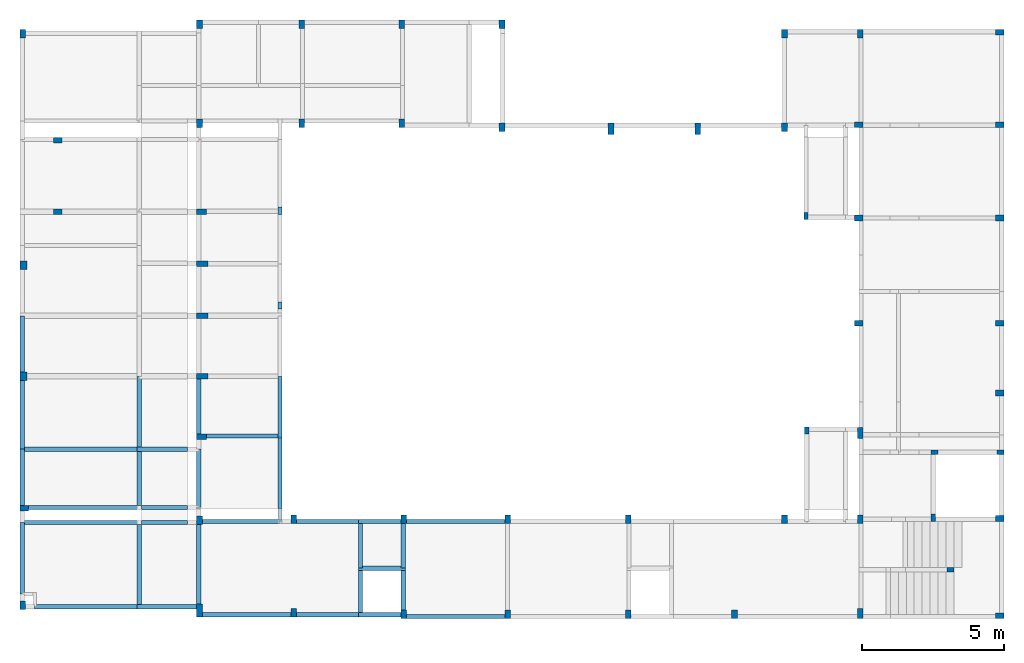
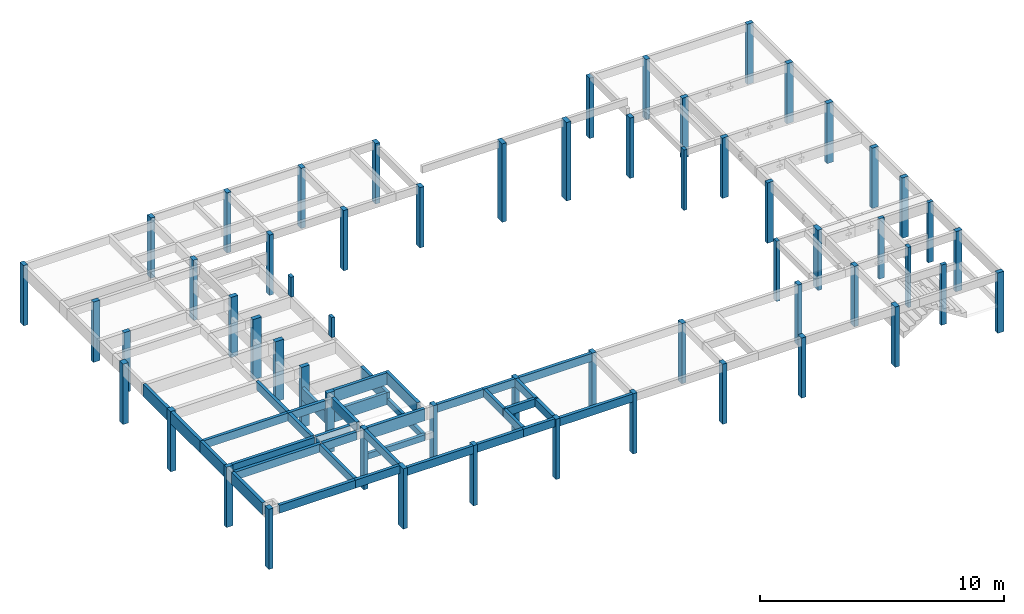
# One storey, part 1 of 21: 58 columns, 37 beams.
"""IFC4 building model written with IfcOpenShell, lengths in centimetres."""

from ifc_helpers import new_model, si_unit, derived_unit, frame, origin_with_axes, origin_2d_with_axis, place, context, project, spatial, rectangle, extrude, material, element, save


model = new_model("IFC4")

# Units and contexts
model_context = context("Model", 3, precision=1e-05, world=origin_with_axes(), identifier="Body")
ifc_project = project(units=[si_unit("LENGTHUNIT", "METRE", prefix="CENTI"), si_unit("VOLUMEUNIT", "CUBIC_METRE"), si_unit("AREAUNIT", "SQUARE_METRE"), si_unit("POWERUNIT", "WATT"), si_unit("LUMINOUSFLUXUNIT", "LUMEN"), si_unit("ELECTRICCURRENTUNIT", "AMPERE"), si_unit("PRESSUREUNIT", "PASCAL", prefix="KILO"), si_unit("MASSUNIT", "GRAM", prefix="KILO"), si_unit("PLANEANGLEUNIT", "RADIAN"), derived_unit("VOLUMETRICFLOWRATEUNIT", [(si_unit("LENGTHUNIT", "METRE"), 3), (si_unit("TIMEUNIT", "SECOND"), -1)])], contexts=[model_context])

# Site, building, storey
site_placement = place(None, origin_with_axes())
site = spatial("IfcSite", under=ifc_project, at=site_placement)
building_placement = place(site_placement, frame((0.0, 0.0, -295.0)))
building = spatial("IfcBuilding", under=site, at=building_placement)
placement_1 = place(building_placement, origin_with_axes())
placement_2 = place(placement_1, frame((0.0, 0.0, 101.0), z_axis=(0.0, 0.0, 1.0), x_axis=(1.0, 0.0, 0.0)))
placement_3 = place(placement_2, frame((0.0, 0.0, 204.0), z_axis=(0.0, 0.0, 1.0), x_axis=(1.0, 0.0, 0.0)))
placement_4 = place(placement_3, frame((0.0, 0.0, 292.0), z_axis=(0.0, 0.0, 1.0), x_axis=(1.0, 0.0, 0.0)))
storey_placement = place(placement_4, frame((0.0, 0.0, 302.0), z_axis=(0.0, 0.0, 1.0), x_axis=(1.0, 0.0, 0.0)))
storey = spatial("IfcBuildingStorey", under=building, at=storey_placement, Name="PAVTO 02", CompositionType="ELEMENT", Elevation=604.0)

# Columns
ifc_material = material(Name="Concreto")
column_1_placement = place(storey_placement, frame((561.73, -5119.55, 0.0), z_axis=(0.0, 0.0, 1.0), x_axis=(1.0, 0.0, 0.0)))
element("IfcColumn", 1, at=column_1_placement, inside=storey, material=ifc_material, Name="P1", context=model_context, shape_type="SolidModel", body=[
    extrude(rectangle(XDim=20.0, YDim=30.0, at=origin_2d_with_axis()), origin_with_axes(), (0.0, 0.0, -1.0), 302.0),
])
column_2_placement = place(storey_placement, frame((4001.76, -5114.55, 0.0), z_axis=(0.0, 0.0, 1.0), x_axis=(1.0, 0.0, 0.0)))
element("IfcColumn", 2, at=column_2_placement, inside=storey, material=ifc_material, Name="P10", context=model_context, shape_type="SolidModel", body=[
    extrude(rectangle(XDim=20.0, YDim=30.0, at=origin_2d_with_axis()), frame((0.0, 0.0, 0.0), z_axis=(0.0, 0.0, 1.0), x_axis=(0.0, 1.0, 0.0)), (0.0, 0.0, -1.0), 302.0),
])
for number, where, z_axis, x_axis, name in (
    (3, (1183.9, -5434.69, 0.0), (0.0, 0.0, 1.0), (1.0, 0.0, 0.0), "P11"),
    (4, (1544.4, -5434.69, 0.0), (0.0, 0.0, 1.0), (1.0, 0.0, 0.0), "P12"),
    (5, (1895.85, -5434.69, 0.0), (0.0, 0.0, 1.0), (1.0, 0.0, 0.0), "P13"),
    (6, (2248.73, -5449.62, 0.0), (0.0, 0.0, 1.0), (1.0, 0.0, 0.0), "P14"),
):
    element("IfcColumn", number, at=place(storey_placement, frame(where, z_axis=z_axis, x_axis=x_axis)), inside=storey, material=ifc_material, Name=name, context=model_context, shape_type="SolidModel", body=[
        extrude(rectangle(XDim=20.0, YDim=30.0, at=origin_2d_with_axis()), origin_with_axes(), (0.0, 0.0, -1.0), 302.0),
    ])
for number, where, z_axis, x_axis, name in (
    (7, (2632.84, -5454.62, 91.0), (0.0, 0.0, 1.0), (1.0, 0.0, 0.0), "P15"),
    (8, (2938.28, -5454.62, 91.0), (0.0, 0.0, 1.0), (1.0, 0.0, 0.0), "P16"),
):
    element("IfcColumn", number, at=place(storey_placement, frame(where, z_axis=z_axis, x_axis=x_axis)), inside=storey, material=ifc_material, Name=name, context=model_context, shape_type="SolidModel", body=[
        extrude(rectangle(XDim=20.0, YDim=40.0, at=origin_2d_with_axis()), origin_with_axes(), (0.0, 0.0, -1.0), 393.0),
    ])
column_3_placement = place(storey_placement, frame((3243.73, -5449.62, 0.0), z_axis=(0.0, 0.0, 1.0), x_axis=(1.0, 0.0, 0.0)))
element("IfcColumn", 9, at=column_3_placement, inside=storey, material=ifc_material, Name="P17", context=model_context, shape_type="SolidModel", body=[
    extrude(rectangle(XDim=20.0, YDim=30.0, at=origin_2d_with_axis()), origin_with_axes(), (0.0, 0.0, -1.0), 302.0),
])
for number, where, z_axis, x_axis, name in (
    (10, (3505.71, -5439.69, 0.0), (0.0, 0.0, 1.0), (1.0, 0.0, 0.0), "P18"),
    (11, (4001.74, -5439.69, 0.0), (0.0, 0.0, 1.0), (1.0, 0.0, 0.0), "P19"),
):
    element("IfcColumn", number, at=place(storey_placement, frame(where, z_axis=z_axis, x_axis=x_axis)), inside=storey, material=ifc_material, Name=name, context=model_context, shape_type="SolidModel", body=[
        extrude(rectangle(XDim=20.0, YDim=30.0, at=origin_2d_with_axis()), frame((0.0, 0.0, 0.0), z_axis=(0.0, 0.0, 1.0), x_axis=(0.0, -1.0, 0.0)), (0.0, 0.0, -1.0), 302.0),
    ])
column_4_placement = place(storey_placement, frame((1183.9, -5086.11, 0.0), z_axis=(0.0, 0.0, 1.0), x_axis=(1.0, 0.0, 0.0)))
element("IfcColumn", 12, at=column_4_placement, inside=storey, material=ifc_material, Name="P2", context=model_context, shape_type="SolidModel", body=[
    extrude(rectangle(XDim=20.0, YDim=30.0, at=origin_2d_with_axis()), origin_with_axes(), (0.0, 0.0, -1.0), 302.0),
])
for number, where, z_axis, x_axis, name in (
    (13, (683.93, -5494.16, 0.0), (0.0, 0.0, 1.0), (1.0, 0.0, 0.0), "P20"),
    (14, (683.93, -5746.84, 0.0), (0.0, 0.0, 1.0), (1.0, 0.0, 0.0), "P22"),
):
    element("IfcColumn", number, at=place(storey_placement, frame(where, z_axis=z_axis, x_axis=x_axis)), inside=storey, material=ifc_material, Name=name, context=model_context, shape_type="SolidModel", body=[
        extrude(rectangle(XDim=20.0, YDim=30.0, at=origin_2d_with_axis()), frame((0.0, 0.0, 0.0), z_axis=(0.0, 0.0, 1.0), x_axis=(0.0, 1.0, 0.0)), (0.0, 0.0, -1.0), 302.0),
    ])
column_5_placement = place(storey_placement, frame((1191.4, -5746.84, 0.0), z_axis=(0.0, 0.0, 1.0), x_axis=(1.0, 0.0, 0.0)))
element("IfcColumn", 15, at=column_5_placement, inside=storey, material=ifc_material, Name="P23", context=model_context, shape_type="SolidModel", body=[
    extrude(rectangle(XDim=20.0, YDim=35.0, at=origin_2d_with_axis()), frame((0.0, 0.0, 0.0), z_axis=(0.0, 0.0, 1.0), x_axis=(0.0, 1.0, 0.0)), (0.0, 0.0, -1.0), 302.0),
])
column_6_placement = place(storey_placement, frame((3319.4, -5761.05, 0.0), z_axis=(0.0, 0.0, 1.0), x_axis=(1.0, 0.0, 0.0)))
element("IfcColumn", 16, at=column_6_placement, inside=storey, material=ifc_material, Name="P24", context=model_context, shape_type="SolidModel", body=[
    extrude(rectangle(XDim=15.0, YDim=25.0, at=origin_2d_with_axis()), origin_with_axes(), (0.0, 0.0, -1.0), 302.0),
])
for number, where, z_axis, x_axis, name in (
    (17, (3505.73, -5768.55, 0.0), (0.0, 0.0, 1.0), (1.0, 0.0, 0.0), "P25"),
    (18, (4001.76, -5768.55, 0.0), (0.0, 0.0, 1.0), (1.0, 0.0, 0.0), "P26"),
):
    element("IfcColumn", number, at=place(storey_placement, frame(where, z_axis=z_axis, x_axis=x_axis)), inside=storey, material=ifc_material, Name=name, context=model_context, shape_type="SolidModel", body=[
        extrude(rectangle(XDim=20.0, YDim=30.0, at=origin_2d_with_axis()), frame((0.0, 0.0, 0.0), z_axis=(0.0, 0.0, 1.0), x_axis=(0.0, -1.0, 0.0)), (0.0, 0.0, -1.0), 302.0),
    ])
column_7_placement = place(storey_placement, frame((564.23, -5934.85, 0.0), z_axis=(0.0, 0.0, 1.0), x_axis=(1.0, 0.0, 0.0)))
element("IfcColumn", 19, at=column_7_placement, inside=storey, material=ifc_material, Name="P27", context=model_context, shape_type="SolidModel", body=[
    extrude(rectangle(XDim=25.0, YDim=30.0, at=origin_2d_with_axis()), origin_with_axes(), (0.0, 0.0, -1.0), 302.0),
])
column_8_placement = place(storey_placement, frame((1193.9, -5929.85, 0.0), z_axis=(0.0, 0.0, 1.0), x_axis=(1.0, 0.0, 0.0)))
element("IfcColumn", 20, at=column_8_placement, inside=storey, material=ifc_material, Name="P28", context=model_context, shape_type="SolidModel", body=[
    extrude(rectangle(XDim=20.0, YDim=40.0, at=origin_2d_with_axis()), frame((0.0, 0.0, 0.0), z_axis=(0.0, 0.0, 1.0), x_axis=(0.0, -1.0, 0.0)), (0.0, 0.0, -1.0), 302.0),
])
column_9_placement = place(storey_placement, frame((1193.9, -6112.7, 0.0), z_axis=(0.0, 0.0, 1.0), x_axis=(1.0, 0.0, 0.0)))
element("IfcColumn", 21, at=column_9_placement, inside=storey, material=ifc_material, Name="P29", context=model_context, shape_type="SolidModel", body=[
    extrude(rectangle(XDim=20.0, YDim=40.0, at=origin_2d_with_axis()), frame((0.0, 0.0, 0.0), z_axis=(0.0, 0.0, 1.0), x_axis=(0.0, 1.0, 0.0)), (0.0, 0.0, -1.0), 302.0),
])
column_10_placement = place(storey_placement, frame((1544.4, -5086.11, 0.0), z_axis=(0.0, 0.0, 1.0), x_axis=(1.0, 0.0, 0.0)))
element("IfcColumn", 22, at=column_10_placement, inside=storey, material=ifc_material, Name="P3", context=model_context, shape_type="SolidModel", body=[
    extrude(rectangle(XDim=20.0, YDim=30.0, at=origin_2d_with_axis()), origin_with_axes(), (0.0, 0.0, -1.0), 302.0),
])
for number, where, z_axis, x_axis, name in (
    (23, (3505.73, -6138.55, 0.0), (0.0, 0.0, 1.0), (1.0, 0.0, 0.0), "P30"),
    (24, (4001.76, -6138.55, 0.0), (0.0, 0.0, 1.0), (1.0, 0.0, 0.0), "P31"),
):
    element("IfcColumn", number, at=place(storey_placement, frame(where, z_axis=z_axis, x_axis=x_axis)), inside=storey, material=ifc_material, Name=name, context=model_context, shape_type="SolidModel", body=[
        extrude(rectangle(XDim=20.0, YDim=30.0, at=origin_2d_with_axis()), frame((0.0, 0.0, 0.0), z_axis=(0.0, 0.0, 1.0), x_axis=(0.0, -1.0, 0.0)), (0.0, 0.0, -1.0), 302.0),
    ])
column_11_placement = place(storey_placement, frame((564.23, -6325.62, 0.0), z_axis=(0.0, 0.0, 1.0), x_axis=(1.0, 0.0, 0.0)))
element("IfcColumn", 25, at=column_11_placement, inside=storey, material=ifc_material, Name="P32", context=model_context, shape_type="SolidModel", body=[
    extrude(rectangle(XDim=25.0, YDim=30.0, at=origin_2d_with_axis()), origin_with_axes(), (0.0, 0.0, -1.0), 302.0),
])
column_12_placement = place(storey_placement, frame((1193.9, -6325.62, 0.0), z_axis=(0.0, 0.0, 1.0), x_axis=(1.0, 0.0, 0.0)))
element("IfcColumn", 26, at=column_12_placement, inside=storey, material=ifc_material, Name="P33", context=model_context, shape_type="SolidModel", body=[
    extrude(rectangle(XDim=20.0, YDim=40.0, at=origin_2d_with_axis()), frame((0.0, 0.0, 0.0), z_axis=(0.0, 0.0, 1.0), x_axis=(0.0, 1.0, 0.0)), (0.0, 0.0, -1.0), 302.0),
])
column_13_placement = place(storey_placement, frame((4001.76, -6384.65, 0.0), z_axis=(0.0, 0.0, 1.0), x_axis=(1.0, 0.0, 0.0)))
element("IfcColumn", 27, at=column_13_placement, inside=storey, material=ifc_material, Name="P34", context=model_context, shape_type="SolidModel", body=[
    extrude(rectangle(XDim=20.0, YDim=30.0, at=origin_2d_with_axis()), frame((0.0, 0.0, 0.0), z_axis=(0.0, 0.0, 1.0), x_axis=(0.0, -1.0, 0.0)), (0.0, 0.0, -1.0), 302.0),
])
column_14_placement = place(storey_placement, frame((1191.4, -6538.55, 0.0), z_axis=(0.0, 0.0, 1.0), x_axis=(1.0, 0.0, 0.0)))
element("IfcColumn", 28, at=column_14_placement, inside=storey, material=ifc_material, Name="P35", context=model_context, shape_type="SolidModel", body=[
    extrude(rectangle(XDim=20.0, YDim=35.0, at=origin_2d_with_axis()), frame((0.0, 0.0, 0.0), z_axis=(0.0, 0.0, 1.0), x_axis=(0.0, 1.0, 0.0)), (0.0, 0.0, -1.0), 302.0),
])
column_15_placement = place(storey_placement, frame((3322.23, -6516.7, 0.0), z_axis=(0.0, 0.0, 1.0), x_axis=(1.0, 0.0, 0.0)))
element("IfcColumn", 29, at=column_15_placement, inside=storey, material=ifc_material, Name="P36", context=model_context, shape_type="SolidModel", body=[
    extrude(rectangle(XDim=15.0, YDim=25.0, at=origin_2d_with_axis()), origin_with_axes(), (0.0, 0.0, -1.0), 302.0),
])
column_16_placement = place(storey_placement, frame((3510.73, -6525.55, 0.0), z_axis=(0.0, 0.0, 1.0), x_axis=(1.0, 0.0, 0.0)))
element("IfcColumn", 30, at=column_16_placement, inside=storey, material=ifc_material, Name="P37", context=model_context, shape_type="SolidModel", body=[
    extrude(rectangle(XDim=20.0, YDim=40.0, at=origin_2d_with_axis()), origin_with_axes(), (0.0, 0.0, -1.0), 302.0),
])
for number, where, z_axis, x_axis, name in (
    (31, (3772.23, -6592.81, 0.0), (0.0, 0.0, 1.0), (1.0, 0.0, 0.0), "P38"),
    (32, (4004.23, -6592.81, 0.0), (0.0, 0.0, 1.0), (1.0, 0.0, 0.0), "P39"),
):
    element("IfcColumn", number, at=place(storey_placement, frame(where, z_axis=z_axis, x_axis=x_axis)), inside=storey, material=ifc_material, Name=name, context=model_context, shape_type="SolidModel", body=[
        extrude(rectangle(XDim=15.0, YDim=25.0, at=origin_2d_with_axis()), frame((0.0, 0.0, 0.0), z_axis=(0.0, 0.0, 1.0), x_axis=(0.0, 1.0, 0.0)), (0.0, 0.0, -1.0), 302.0),
    ])
column_17_placement = place(storey_placement, frame((1895.85, -5086.11, 0.0), z_axis=(0.0, 0.0, 1.0), x_axis=(1.0, 0.0, 0.0)))
element("IfcColumn", 33, at=column_17_placement, inside=storey, material=ifc_material, Name="P4", context=model_context, shape_type="SolidModel", body=[
    extrude(rectangle(XDim=20.0, YDim=30.0, at=origin_2d_with_axis()), origin_with_axes(), (0.0, 0.0, -1.0), 302.0),
])
column_18_placement = place(storey_placement, frame((566.73, -6790.04, 0.0), z_axis=(0.0, 0.0, 1.0), x_axis=(1.0, 0.0, 0.0)))
element("IfcColumn", 34, at=column_18_placement, inside=storey, material=ifc_material, Name="P40", context=model_context, shape_type="SolidModel", body=[
    extrude(rectangle(XDim=20.0, YDim=30.0, at=origin_2d_with_axis()), frame((0.0, 0.0, 0.0), z_axis=(0.0, 0.0, 1.0), x_axis=(0.0, 1.0, 0.0)), (0.0, 0.0, -1.0), 302.0),
])
for number, where, z_axis, x_axis, name in (
    (35, (1183.9, -6833.35, 0.0), (0.0, 0.0, 1.0), (1.0, 0.0, 0.0), "P41"),
    (36, (1515.96, -6829.2, 0.0), (0.0, 0.0, 1.0), (1.0, 0.0, 0.0), "P42"),
    (37, (1903.6, -6829.2, 0.0), (0.0, 0.0, 1.0), (1.0, 0.0, 0.0), "P43"),
    (38, (2268.73, -6829.2, 0.0), (0.0, 0.0, 1.0), (1.0, 0.0, 0.0), "P44"),
    (39, (2693.6, -6829.2, 0.0), (0.0, 0.0, 1.0), (1.0, 0.0, 0.0), "P45"),
    (40, (3243.73, -6829.2, 0.0), (0.0, 0.0, 1.0), (1.0, 0.0, 0.0), "P46"),
    (41, (3510.73, -6829.2, 0.0), (0.0, 0.0, 1.0), (1.0, 0.0, 0.0), "P47"),
):
    element("IfcColumn", number, at=place(storey_placement, frame(where, z_axis=z_axis, x_axis=x_axis)), inside=storey, material=ifc_material, Name=name, context=model_context, shape_type="SolidModel", body=[
        extrude(rectangle(XDim=20.0, YDim=30.0, at=origin_2d_with_axis()), origin_with_axes(), (0.0, 0.0, -1.0), 302.0),
    ])
column_19_placement = place(storey_placement, frame((3767.23, -6823.79, 0.0), z_axis=(0.0, 0.0, 1.0), x_axis=(1.0, 0.0, 0.0)))
element("IfcColumn", 42, at=column_19_placement, inside=storey, material=ifc_material, Name="P48", context=model_context, shape_type="SolidModel", body=[
    extrude(rectangle(XDim=15.0, YDim=25.0, at=origin_2d_with_axis()), origin_with_axes(), (0.0, 0.0, -1.0), 302.0),
])
column_20_placement = place(storey_placement, frame((4001.75, -6826.29, 0.0), z_axis=(0.0, 0.0, 1.0), x_axis=(1.0, 0.0, 0.0)))
element("IfcColumn", 43, at=column_20_placement, inside=storey, material=ifc_material, Name="P49", context=model_context, shape_type="SolidModel", body=[
    extrude(rectangle(XDim=20.0, YDim=30.0, at=origin_2d_with_axis()), frame((0.0, 0.0, 0.0), z_axis=(0.0, 0.0, 1.0), x_axis=(0.0, 1.0, 0.0)), (0.0, 0.0, -1.0), 302.0),
])
column_21_placement = place(storey_placement, frame((2248.73, -5086.25, 0.0), z_axis=(0.0, 0.0, 1.0), x_axis=(1.0, 0.0, 0.0)))
element("IfcColumn", 44, at=column_21_placement, inside=storey, material=ifc_material, Name="P5", context=model_context, shape_type="SolidModel", body=[
    extrude(rectangle(XDim=20.0, YDim=30.0, at=origin_2d_with_axis()), origin_with_axes(), (0.0, 0.0, -1.0), 302.0),
])
column_22_placement = place(storey_placement, frame((3828.09, -7006.81, 0.0), z_axis=(0.0, 0.0, 1.0), x_axis=(1.0, 0.0, 0.0)))
element("IfcColumn", 45, at=column_22_placement, inside=storey, material=ifc_material, Name="P50", context=model_context, shape_type="SolidModel", body=[
    extrude(rectangle(XDim=15.0, YDim=25.0, at=origin_2d_with_axis()), frame((0.0, 0.0, 0.0), z_axis=(0.0, 0.0, 1.0), x_axis=(0.0, -1.0, 0.0)), (0.0, 0.0, -1.0), 302.0),
])
column_23_placement = place(storey_placement, frame((561.73, -7132.2, 0.0), z_axis=(0.0, 0.0, 1.0), x_axis=(1.0, 0.0, 0.0)))
element("IfcColumn", 46, at=column_23_placement, inside=storey, material=ifc_material, Name="P51", context=model_context, shape_type="SolidModel", body=[
    extrude(rectangle(XDim=20.0, YDim=30.0, at=origin_2d_with_axis()), frame((0.0, 0.0, 0.0), z_axis=(0.0, 0.0, 1.0), x_axis=(-1.0, 0.0, 0.0)), (0.0, 0.0, -1.0), 302.0),
])
column_24_placement = place(storey_placement, frame((1183.9, -7150.43, 0.0), z_axis=(0.0, 0.0, 1.0), x_axis=(1.0, 0.0, 0.0)))
element("IfcColumn", 47, at=column_24_placement, inside=storey, material=ifc_material, Name="P52", context=model_context, shape_type="SolidModel", body=[
    extrude(rectangle(XDim=20.0, YDim=45.0, at=origin_2d_with_axis()), frame((0.0, 0.0, 0.0), z_axis=(0.0, 0.0, 1.0), x_axis=(-1.0, 0.0, 0.0)), (0.0, 0.0, -1.0), 302.0),
])
for number, where, z_axis, x_axis, name in (
    (48, (1515.96, -7157.93, 0.0), (0.0, 0.0, 1.0), (1.0, 0.0, 0.0), "P53"),
    (49, (1903.6, -7164.31, 0.0), (0.0, 0.0, 1.0), (1.0, 0.0, 0.0), "P54"),
    (50, (2268.73, -7164.31, 0.0), (0.0, 0.0, 1.0), (1.0, 0.0, 0.0), "P55"),
    (51, (2693.6, -7164.31, 0.0), (0.0, 0.0, 1.0), (1.0, 0.0, 0.0), "P56"),
    (52, (3067.54, -7164.31, 0.0), (0.0, 0.0, 1.0), (1.0, 0.0, 0.0), "P57"),
):
    element("IfcColumn", number, at=place(storey_placement, frame(where, z_axis=z_axis, x_axis=x_axis)), inside=storey, material=ifc_material, Name=name, context=model_context, shape_type="SolidModel", body=[
        extrude(rectangle(XDim=20.0, YDim=30.0, at=origin_2d_with_axis()), origin_with_axes(), (0.0, 0.0, -1.0), 302.0),
    ])
column_25_placement = place(storey_placement, frame((3510.73, -7161.81, 0.0), z_axis=(0.0, 0.0, 1.0), x_axis=(1.0, 0.0, 0.0)))
element("IfcColumn", 53, at=column_25_placement, inside=storey, material=ifc_material, Name="P58", context=model_context, shape_type="SolidModel", body=[
    extrude(rectangle(XDim=20.0, YDim=35.0, at=origin_2d_with_axis()), frame((0.0, 0.0, 0.0), z_axis=(0.0, 0.0, 1.0), x_axis=(-1.0, 0.0, 0.0)), (0.0, 0.0, -1.0), 302.0),
])
column_26_placement = place(storey_placement, frame((4001.76, -7169.31, 0.0), z_axis=(0.0, 0.0, 1.0), x_axis=(1.0, 0.0, 0.0)))
element("IfcColumn", 54, at=column_26_placement, inside=storey, material=ifc_material, Name="P59", context=model_context, shape_type="SolidModel", body=[
    extrude(rectangle(XDim=20.0, YDim=30.0, at=origin_2d_with_axis()), frame((0.0, 0.0, 0.0), z_axis=(0.0, 0.0, 1.0), x_axis=(0.0, -1.0, 0.0)), (0.0, 0.0, -1.0), 302.0),
])
for number, where, z_axis, x_axis, name in (
    (55, (1467.4, -5742.84, 0.0), (0.0, 0.0, 1.0), (1.0, 0.0, 0.0), "P60"),
    (56, (1467.4, -6076.7, 0.0), (0.0, 0.0, 1.0), (1.0, 0.0, 0.0), "P61"),
):
    element("IfcColumn", number, at=place(storey_placement, frame(where, z_axis=z_axis, x_axis=x_axis)), inside=storey, material=ifc_material, Name=name, context=model_context, shape_type="SolidModel", body=[
        extrude(rectangle(XDim=15.0, YDim=25.0, at=origin_2d_with_axis()), origin_with_axes(), (0.0, 0.0, -1.0), 100.0),
    ])
column_27_placement = place(storey_placement, frame((3243.73, -5119.55, 0.0), z_axis=(0.0, 0.0, 1.0), x_axis=(1.0, 0.0, 0.0)))
element("IfcColumn", 57, at=column_27_placement, inside=storey, material=ifc_material, Name="P8", context=model_context, shape_type="SolidModel", body=[
    extrude(rectangle(XDim=20.0, YDim=30.0, at=origin_2d_with_axis()), origin_with_axes(), (0.0, 0.0, -1.0), 302.0),
])
column_28_placement = place(storey_placement, frame((3510.73, -5119.55, 0.0), z_axis=(0.0, 0.0, 1.0), x_axis=(1.0, 0.0, 0.0)))
element("IfcColumn", 58, at=column_28_placement, inside=storey, material=ifc_material, Name="P9", context=model_context, shape_type="SolidModel", body=[
    extrude(rectangle(XDim=20.0, YDim=30.0, at=origin_2d_with_axis()), frame((0.0, 0.0, 0.0), z_axis=(0.0, 0.0, 1.0), x_axis=(-1.0, 0.0, 0.0)), (0.0, 0.0, -1.0), 302.0),
])

# Beams
beam_1_placement = place(storey_placement, frame((765.4, -6582.54, 0.0), z_axis=(0.0, 0.0, 1.0), x_axis=(1.0, 0.0, 0.0)))
element("IfcBeam", 59, at=beam_1_placement, inside=storey, material=ifc_material, Name="V221", context=model_context, shape_type="SolidModel", body=[
    extrude(rectangle(XDim=15.0, YDim=40.0, at=origin_2d_with_axis()), frame((-206.17, 0.0, -20.0), z_axis=(1.0, 0.0, 0.0), x_axis=(0.0, -1.0, 0.0)), (0.0, 0.0, 1.0), 412.34),
])
beam_2_placement = place(storey_placement, frame((1052.485, -6582.54, 0.0), z_axis=(0.0, 0.0, 1.0), x_axis=(1.0, 0.0, 0.0)))
element("IfcBeam", 60, at=beam_2_placement, inside=storey, material=ifc_material, Name="V221", context=model_context, shape_type="SolidModel", body=[
    extrude(rectangle(XDim=15.0, YDim=40.0, at=origin_2d_with_axis()), frame((-88.415, 0.0, -20.0), z_axis=(1.0, 0.0, 0.0), x_axis=(0.0, -1.0, 0.0)), (0.0, 0.0, 1.0), 176.83),
])
beam_3_placement = place(storey_placement, frame((1334.4, -6536.05, 0.0), z_axis=(0.0, 0.0, 1.0), x_axis=(1.0, 0.0, 0.0)))
element("IfcBeam", 61, at=beam_3_placement, inside=storey, material=ifc_material, Name="V222", context=model_context, shape_type="SolidModel", body=[
    extrude(rectangle(XDim=15.0, YDim=60.0, at=origin_2d_with_axis()), frame((-125.5, 0.0, -30.0), z_axis=(1.0, 0.0, 0.0), x_axis=(0.0, -1.0, 0.0)), (0.0, 0.0, 1.0), 251.0),
])
beam_4_placement = place(storey_placement, frame((1059.985, -6787.54, 0.0), z_axis=(0.0, 0.0, 1.0), x_axis=(1.0, 0.0, 0.0)))
element("IfcBeam", 62, at=beam_4_placement, inside=storey, material=ifc_material, Name="V224", context=model_context, shape_type="SolidModel", body=[
    extrude(rectangle(XDim=15.0, YDim=40.0, at=origin_2d_with_axis()), frame((-80.915, 0.0, -20.0), z_axis=(1.0, 0.0, 0.0), x_axis=(0.0, -1.0, 0.0)), (0.0, 0.0, 1.0), 161.83),
])
beam_5_placement = place(storey_placement, frame((776.65, -6787.54, 0.0), z_axis=(0.0, 0.0, 1.0), x_axis=(1.0, 0.0, 0.0)))
element("IfcBeam", 63, at=beam_5_placement, inside=storey, material=ifc_material, Name="V224", context=model_context, shape_type="SolidModel", body=[
    extrude(rectangle(XDim=15.0, YDim=40.0, at=origin_2d_with_axis()), frame((-194.92, 0.0, -20.0), z_axis=(1.0, 0.0, 0.0), x_axis=(0.0, -1.0, 0.0)), (0.0, 0.0, 1.0), 389.84),
])
beam_6_placement = place(storey_placement, frame((1059.985, -6840.85, 0.0), z_axis=(0.0, 0.0, 1.0), x_axis=(1.0, 0.0, 0.0)))
element("IfcBeam", 64, at=beam_6_placement, inside=storey, material=ifc_material, Name="V225", context=model_context, shape_type="SolidModel", body=[
    extrude(rectangle(XDim=15.0, YDim=40.0, at=origin_2d_with_axis()), frame((-80.915, 0.0, -20.0), z_axis=(1.0, 0.0, 0.0), x_axis=(0.0, -1.0, 0.0)), (0.0, 0.0, 1.0), 161.83),
])
beam_7_placement = place(storey_placement, frame((765.4, -6840.85, 0.0), z_axis=(0.0, 0.0, 1.0), x_axis=(1.0, 0.0, 0.0)))
element("IfcBeam", 65, at=beam_7_placement, inside=storey, material=ifc_material, Name="V225", context=model_context, shape_type="SolidModel", body=[
    extrude(rectangle(XDim=15.0, YDim=40.0, at=origin_2d_with_axis()), frame((-206.17, 0.0, -20.0), z_axis=(1.0, 0.0, 0.0), x_axis=(0.0, -1.0, 0.0)), (0.0, 0.0, 1.0), 412.34),
])
beam_8_placement = place(storey_placement, frame((1330.65, -6836.7, 0.0), z_axis=(0.0, 0.0, 1.0), x_axis=(1.0, 0.0, 0.0)))
element("IfcBeam", 66, at=beam_8_placement, inside=storey, material=ifc_material, Name="V226", context=model_context, shape_type="SolidModel", body=[
    extrude(rectangle(XDim=15.0, YDim=60.0, at=origin_2d_with_axis()), frame((-136.75, 0.0, -30.0), z_axis=(1.0, 0.0, 0.0), x_axis=(0.0, -1.0, 0.0)), (0.0, 0.0, 1.0), 273.5),
])
beam_9_placement = place(storey_placement, frame((2086.165, -6836.7, 0.0), z_axis=(0.0, 0.0, 1.0), x_axis=(1.0, 0.0, 0.0)))
element("IfcBeam", 67, at=beam_9_placement, inside=storey, material=ifc_material, Name="V227", context=model_context, shape_type="SolidModel", body=[
    extrude(rectangle(XDim=15.0, YDim=40.0, at=origin_2d_with_axis()), frame((-172.565, 0.0, -20.0), z_axis=(1.0, 0.0, 0.0), x_axis=(0.0, -1.0, 0.0)), (0.0, 0.0, 1.0), 345.13),
])
beam_10_placement = place(storey_placement, frame((1638.53, -6836.7, 0.0), z_axis=(0.0, 0.0, 1.0), x_axis=(1.0, 0.0, 0.0)))
element("IfcBeam", 68, at=beam_10_placement, inside=storey, material=ifc_material, Name="V227", context=model_context, shape_type="SolidModel", body=[
    extrude(rectangle(XDim=15.0, YDim=40.0, at=origin_2d_with_axis()), frame((-112.57, 0.0, -20.0), z_axis=(1.0, 0.0, 0.0), x_axis=(0.0, -1.0, 0.0)), (0.0, 0.0, 1.0), 225.14),
])
beam_11_placement = place(storey_placement, frame((1818.6, -6836.7, 0.0), z_axis=(0.0, 0.0, 1.0), x_axis=(1.0, 0.0, 0.0)))
element("IfcBeam", 69, at=beam_11_placement, inside=storey, material=ifc_material, Name="V227", context=model_context, shape_type="SolidModel", body=[
    extrude(rectangle(XDim=15.0, YDim=40.0, at=origin_2d_with_axis()), frame((-75.0, 0.0, -20.0), z_axis=(1.0, 0.0, 0.0), x_axis=(0.0, -1.0, 0.0)), (0.0, 0.0, 1.0), 150.0),
])
beam_12_placement = place(storey_placement, frame((1826.1, -7001.64, 0.0), z_axis=(0.0, 0.0, 1.0), x_axis=(1.0, 0.0, 0.0)))
element("IfcBeam", 70, at=beam_12_placement, inside=storey, material=ifc_material, Name="V229", context=model_context, shape_type="SolidModel", body=[
    extrude(rectangle(XDim=15.0, YDim=40.0, at=origin_2d_with_axis()), frame((-82.5, 0.0, -20.0), z_axis=(1.0, 0.0, 0.0), x_axis=(0.0, -1.0, 0.0)), (0.0, 0.0, 1.0), 165.0),
])
beam_13_placement = place(storey_placement, frame((787.51, -7136.84, 0.0), z_axis=(0.0, 0.0, 1.0), x_axis=(1.0, 0.0, 0.0)))
element("IfcBeam", 71, at=beam_13_placement, inside=storey, material=ifc_material, Name="V233", context=model_context, shape_type="SolidModel", body=[
    extrude(rectangle(XDim=15.0, YDim=40.0, at=origin_2d_with_axis()), frame((-184.06, 0.0, -20.0), z_axis=(1.0, 0.0, 0.0), x_axis=(0.0, -1.0, 0.0)), (0.0, 0.0, 1.0), 368.12),
])
beam_14_placement = place(storey_placement, frame((1068.985, -7136.84, 0.0), z_axis=(0.0, 0.0, 1.0), x_axis=(1.0, 0.0, 0.0)))
element("IfcBeam", 72, at=beam_14_placement, inside=storey, material=ifc_material, Name="V233", context=model_context, shape_type="SolidModel", body=[
    extrude(rectangle(XDim=15.0, YDim=40.0, at=origin_2d_with_axis()), frame((-104.915, 0.0, -20.0), z_axis=(1.0, 0.0, 0.0), x_axis=(0.0, -1.0, 0.0)), (0.0, 0.0, 1.0), 209.83),
])
beam_15_placement = place(storey_placement, frame((1818.6, -7165.43, 0.0), z_axis=(0.0, 0.0, 1.0), x_axis=(1.0, 0.0, 0.0)))
element("IfcBeam", 73, at=beam_15_placement, inside=storey, material=ifc_material, Name="V234", context=model_context, shape_type="SolidModel", body=[
    extrude(rectangle(XDim=15.0, YDim=40.0, at=origin_2d_with_axis()), frame((-75.0, 0.0, -20.0), z_axis=(1.0, 0.0, 0.0), x_axis=(0.0, -1.0, 0.0)), (0.0, 0.0, 1.0), 150.0),
])
beam_16_placement = place(storey_placement, frame((1349.93, -7165.43, 0.0), z_axis=(0.0, 0.0, 1.0), x_axis=(1.0, 0.0, 0.0)))
element("IfcBeam", 74, at=beam_16_placement, inside=storey, material=ifc_material, Name="V234", context=model_context, shape_type="SolidModel", body=[
    extrude(rectangle(XDim=15.0, YDim=40.0, at=origin_2d_with_axis()), frame((-156.03, 0.0, -20.0), z_axis=(1.0, 0.0, 0.0), x_axis=(0.0, -1.0, 0.0)), (0.0, 0.0, 1.0), 312.06),
])
beam_17_placement = place(storey_placement, frame((1638.53, -7165.43, 0.0), z_axis=(0.0, 0.0, 1.0), x_axis=(1.0, 0.0, 0.0)))
element("IfcBeam", 75, at=beam_17_placement, inside=storey, material=ifc_material, Name="V234", context=model_context, shape_type="SolidModel", body=[
    extrude(rectangle(XDim=15.0, YDim=40.0, at=origin_2d_with_axis()), frame((-112.57, 0.0, -20.0), z_axis=(1.0, 0.0, 0.0), x_axis=(0.0, -1.0, 0.0)), (0.0, 0.0, 1.0), 225.14),
])
beam_18_placement = place(storey_placement, frame((2086.165, -7171.81, 0.0), z_axis=(0.0, 0.0, 1.0), x_axis=(1.0, 0.0, 0.0)))
element("IfcBeam", 76, at=beam_18_placement, inside=storey, material=ifc_material, Name="V235", context=model_context, shape_type="SolidModel", body=[
    extrude(rectangle(XDim=15.0, YDim=40.0, at=origin_2d_with_axis()), frame((-172.565, 0.0, -20.0), z_axis=(1.0, 0.0, 0.0), x_axis=(0.0, -1.0, 0.0)), (0.0, 0.0, 1.0), 345.13),
])
beam_19_placement = place(storey_placement, frame((559.23, -6681.29, 0.0), z_axis=(0.0, 0.0, 1.0), x_axis=(1.0, 0.0, 0.0)))
element("IfcBeam", 77, at=beam_19_placement, inside=storey, material=ifc_material, Name="V237", context=model_context, shape_type="SolidModel", body=[
    extrude(rectangle(XDim=15.0, YDim=60.0, at=origin_2d_with_axis()), frame((0.0, -98.75, -30.0), z_axis=(0.0, 1.0, 0.0), x_axis=(1.0, 0.0, 0.0)), (0.0, 0.0, 1.0), 197.5),
])
beam_20_placement = place(storey_placement, frame((559.23, -6461.58, 0.0), z_axis=(0.0, 0.0, 1.0), x_axis=(1.0, 0.0, 0.0)))
element("IfcBeam", 78, at=beam_20_placement, inside=storey, material=ifc_material, Name="V237", context=model_context, shape_type="SolidModel", body=[
    extrude(rectangle(XDim=15.0, YDim=60.0, at=origin_2d_with_axis()), frame((0.0, -120.96, -30.0), z_axis=(0.0, 1.0, 0.0), x_axis=(1.0, 0.0, 0.0)), (0.0, 0.0, 1.0), 241.92),
])
beam_21_placement = place(storey_placement, frame((559.23, -6211.66, 0.0), z_axis=(0.0, 0.0, 1.0), x_axis=(1.0, 0.0, 0.0)))
element("IfcBeam", 79, at=beam_21_placement, inside=storey, material=ifc_material, Name="V237", context=model_context, shape_type="SolidModel", body=[
    extrude(rectangle(XDim=15.0, YDim=60.0, at=origin_2d_with_axis()), frame((0.0, -98.96, -30.0), z_axis=(0.0, 1.0, 0.0), x_axis=(1.0, 0.0, 0.0)), (0.0, 0.0, 1.0), 197.92),
])
beam_22_placement = place(storey_placement, frame((559.23, -6967.025, 0.0), z_axis=(0.0, 0.0, 1.0), x_axis=(1.0, 0.0, 0.0)))
element("IfcBeam", 80, at=beam_22_placement, inside=storey, material=ifc_material, Name="V237", context=model_context, shape_type="SolidModel", body=[
    extrude(rectangle(XDim=15.0, YDim=60.0, at=origin_2d_with_axis()), frame((0.0, -126.175, -30.0), z_axis=(0.0, 1.0, 0.0), x_axis=(1.0, 0.0, 0.0)), (0.0, 0.0, 1.0), 252.35),
])
beam_23_placement = place(storey_placement, frame((971.57, -6988.845, 0.0), z_axis=(0.0, 0.0, 1.0), x_axis=(1.0, 0.0, 0.0)))
element("IfcBeam", 81, at=beam_23_placement, inside=storey, material=ifc_material, Name="V238", context=model_context, shape_type="SolidModel", body=[
    extrude(rectangle(XDim=15.0, YDim=40.0, at=origin_2d_with_axis()), frame((0.0, -140.495, -20.0), z_axis=(0.0, 1.0, 0.0), x_axis=(1.0, 0.0, 0.0)), (0.0, 0.0, 1.0), 280.99),
])
beam_24_placement = place(storey_placement, frame((971.57, -6685.04, 0.0), z_axis=(0.0, 0.0, 1.0), x_axis=(1.0, 0.0, 0.0)))
element("IfcBeam", 82, at=beam_24_placement, inside=storey, material=ifc_material, Name="V239", context=model_context, shape_type="SolidModel", body=[
    extrude(rectangle(XDim=15.0, YDim=40.0, at=origin_2d_with_axis()), frame((0.0, -95.0, -20.0), z_axis=(0.0, 1.0, 0.0), x_axis=(1.0, 0.0, 0.0)), (0.0, 0.0, 1.0), 190.0),
])
beam_25_placement = place(storey_placement, frame((971.57, -6454.08, 0.0), z_axis=(0.0, 0.0, 1.0), x_axis=(1.0, 0.0, 0.0)))
element("IfcBeam", 83, at=beam_25_placement, inside=storey, material=ifc_material, Name="V239", context=model_context, shape_type="SolidModel", body=[
    extrude(rectangle(XDim=15.0, YDim=40.0, at=origin_2d_with_axis()), frame((0.0, -128.46, -20.0), z_axis=(0.0, 1.0, 0.0), x_axis=(1.0, 0.0, 0.0)), (0.0, 0.0, 1.0), 256.92),
])
beam_26_placement = place(storey_placement, frame((1181.4, -6988.14, 0.0), z_axis=(0.0, 0.0, 1.0), x_axis=(1.0, 0.0, 0.0)))
element("IfcBeam", 84, at=beam_26_placement, inside=storey, material=ifc_material, Name="V241", context=model_context, shape_type="SolidModel", body=[
    extrude(rectangle(XDim=15.0, YDim=40.0, at=origin_2d_with_axis()), frame((0.0, -139.79, -20.0), z_axis=(0.0, 1.0, 0.0), x_axis=(1.0, 0.0, 0.0)), (0.0, 0.0, 1.0), 279.58),
])
beam_27_placement = place(storey_placement, frame((1181.4, -6685.04, 0.0), z_axis=(0.0, 0.0, 1.0), x_axis=(1.0, 0.0, 0.0)))
element("IfcBeam", 85, at=beam_27_placement, inside=storey, material=ifc_material, Name="V241", context=model_context, shape_type="SolidModel", body=[
    extrude(rectangle(XDim=15.0, YDim=50.0, at=origin_2d_with_axis()), frame((0.0, -102.5, -25.0), z_axis=(0.0, 1.0, 0.0), x_axis=(1.0, 0.0, 0.0)), (0.0, 0.0, 1.0), 205.0),
])
beam_28_placement = place(storey_placement, frame((1467.4, -6660.055, 0.0), z_axis=(0.0, 0.0, 1.0), x_axis=(1.0, 0.0, 0.0)))
element("IfcBeam", 86, at=beam_28_placement, inside=storey, material=ifc_material, Name="V245", context=model_context, shape_type="SolidModel", body=[
    extrude(rectangle(XDim=15.0, YDim=60.0, at=origin_2d_with_axis()), frame((0.0, -131.505, -30.0), z_axis=(0.0, 1.0, 0.0), x_axis=(1.0, 0.0, 0.0)), (0.0, 0.0, 1.0), 263.01),
])
beam_29_placement = place(storey_placement, frame((1751.1, -7083.535, 0.0), z_axis=(0.0, 0.0, 1.0), x_axis=(1.0, 0.0, 0.0)))
element("IfcBeam", 87, at=beam_29_placement, inside=storey, material=ifc_material, Name="V247", context=model_context, shape_type="SolidModel", body=[
    extrude(rectangle(XDim=15.0, YDim=40.0, at=origin_2d_with_axis()), frame((0.0, -74.395, -20.0), z_axis=(0.0, 1.0, 0.0), x_axis=(1.0, 0.0, 0.0)), (0.0, 0.0, 1.0), 148.79),
])
beam_30_placement = place(storey_placement, frame((1751.1, -6922.92, 0.0), z_axis=(0.0, 0.0, 1.0), x_axis=(1.0, 0.0, 0.0)))
element("IfcBeam", 88, at=beam_30_placement, inside=storey, material=ifc_material, Name="V247", context=model_context, shape_type="SolidModel", body=[
    extrude(rectangle(XDim=15.0, YDim=40.0, at=origin_2d_with_axis()), frame((0.0, -78.72, -20.0), z_axis=(0.0, 1.0, 0.0), x_axis=(1.0, 0.0, 0.0)), (0.0, 0.0, 1.0), 157.44),
])
beam_31_placement = place(storey_placement, frame((1901.1, -7079.225, 0.0), z_axis=(0.0, 0.0, 1.0), x_axis=(1.0, 0.0, 0.0)))
element("IfcBeam", 89, at=beam_31_placement, inside=storey, material=ifc_material, Name="V248", context=model_context, shape_type="SolidModel", body=[
    extrude(rectangle(XDim=15.0, YDim=40.0, at=origin_2d_with_axis()), frame((0.0, -70.085, -20.0), z_axis=(0.0, 1.0, 0.0), x_axis=(1.0, 0.0, 0.0)), (0.0, 0.0, 1.0), 140.17),
])
beam_32_placement = place(storey_placement, frame((1901.1, -6922.92, 0.0), z_axis=(0.0, 0.0, 1.0), x_axis=(1.0, 0.0, 0.0)))
element("IfcBeam", 90, at=beam_32_placement, inside=storey, material=ifc_material, Name="V248", context=model_context, shape_type="SolidModel", body=[
    extrude(rectangle(XDim=15.0, YDim=40.0, at=origin_2d_with_axis()), frame((0.0, -78.72, -20.0), z_axis=(0.0, 1.0, 0.0), x_axis=(1.0, 0.0, 0.0)), (0.0, 0.0, 1.0), 157.44),
])
beam_33_placement = place(storey_placement, frame((1334.4, -6536.05, -100.0), z_axis=(0.0, 0.0, 1.0), x_axis=(1.0, 0.0, 0.0)))
element("IfcBeam", 91, at=beam_33_placement, inside=storey, material=ifc_material, Name="V273", context=model_context, shape_type="SolidModel", body=[
    extrude(rectangle(XDim=15.0, YDim=60.0, at=origin_2d_with_axis()), frame((-125.5, 0.0, -30.0), z_axis=(1.0, 0.0, 0.0), x_axis=(0.0, -1.0, 0.0)), (0.0, 0.0, 1.0), 251.0),
])
beam_34_placement = place(storey_placement, frame((1330.65, -6836.76, -130.0), z_axis=(0.0, 0.0, 1.0), x_axis=(1.0, 0.0, 0.0)))
element("IfcBeam", 92, at=beam_34_placement, inside=storey, material=ifc_material, Name="V274", context=model_context, shape_type="SolidModel", body=[
    extrude(rectangle(XDim=15.0, YDim=30.0, at=origin_2d_with_axis()), frame((-136.75, 0.0, -15.0), z_axis=(1.0, 0.0, 0.0), x_axis=(0.0, -1.0, 0.0)), (0.0, 0.0, 1.0), 273.5),
])
beam_35_placement = place(storey_placement, frame((1181.4, -6432.085, -100.0), z_axis=(0.0, 0.0, 1.0), x_axis=(1.0, 0.0, 0.0)))
element("IfcBeam", 93, at=beam_35_placement, inside=storey, material=ifc_material, Name="V275", context=model_context, shape_type="SolidModel", body=[
    extrude(rectangle(XDim=15.0, YDim=60.0, at=origin_2d_with_axis()), frame((0.0, -96.465, -30.0), z_axis=(0.0, 1.0, 0.0), x_axis=(1.0, 0.0, 0.0)), (0.0, 0.0, 1.0), 192.93),
])
beam_36_placement = place(storey_placement, frame((1467.4, -6686.405, -130.0), z_axis=(0.0, 0.0, 1.0), x_axis=(1.0, 0.0, 0.0)))
element("IfcBeam", 94, at=beam_36_placement, inside=storey, material=ifc_material, Name="V276", context=model_context, shape_type="SolidModel", body=[
    extrude(rectangle(XDim=15.0, YDim=30.0, at=origin_2d_with_axis()), frame((0.0, -150.355, -15.0), z_axis=(0.0, 1.0, 0.0), x_axis=(1.0, 0.0, 0.0)), (0.0, 0.0, 1.0), 300.71),
])
beam_37_placement = place(storey_placement, frame((1467.4, -6434.585, -100.0), z_axis=(0.0, 0.0, 1.0), x_axis=(1.0, 0.0, 0.0)))
element("IfcBeam", 95, at=beam_37_placement, inside=storey, material=ifc_material, Name="V277", context=model_context, shape_type="SolidModel", body=[
    extrude(rectangle(XDim=15.0, YDim=60.0, at=origin_2d_with_axis()), frame((0.0, -108.965, -30.0), z_axis=(0.0, 1.0, 0.0), x_axis=(1.0, 0.0, 0.0)), (0.0, 0.0, 1.0), 217.93),
])

save(model, "model.ifc")
